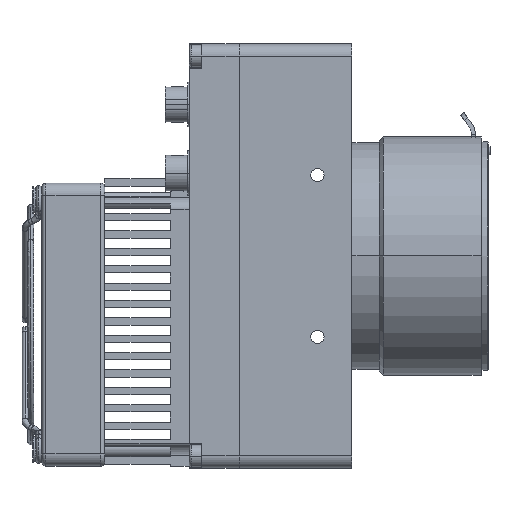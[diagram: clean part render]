
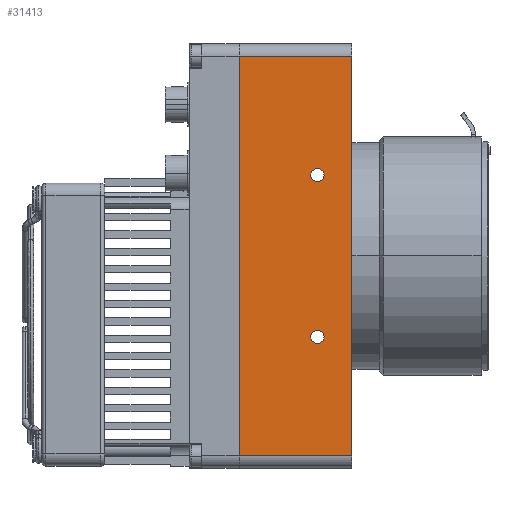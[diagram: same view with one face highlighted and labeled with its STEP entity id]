
A CAD part, left-side view. The second image highlights one B-rep face of the part: STEP entity #31413.
In plain terms, the highlighted planar face has unit normal (-1, 0, 0).
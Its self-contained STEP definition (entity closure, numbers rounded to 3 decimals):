
#67 = EDGE_CURVE ( 'NONE', #29285, #19348, #17528, .T. ) ;
#131 = AXIS2_PLACEMENT_3D ( 'NONE', #10005, #1193, #7155 ) ;
#397 = DIRECTION ( 'NONE',  ( 0., 0., 1. ) ) ;
#590 = EDGE_LOOP ( 'NONE', ( #15031, #12535 ) ) ;
#1123 = DIRECTION ( 'NONE',  ( 0., 0., 1. ) ) ;
#1193 = DIRECTION ( 'NONE',  ( -1., 0., 0. ) ) ;
#1910 = VERTEX_POINT ( 'NONE', #13142 ) ;
#1940 = DIRECTION ( 'NONE',  ( 0., 0., 1. ) ) ;
#2352 = CIRCLE ( 'NONE', #14669, 1.65 ) ;
#3054 = PLANE ( 'NONE',  #9479 ) ;
#3292 = ORIENTED_EDGE ( 'NONE', *, *, #4690, .F. ) ;
#3825 = CARTESIAN_POINT ( 'NONE',  ( -41.006, -6.854, 70. ) ) ;
#3880 = AXIS2_PLACEMENT_3D ( 'NONE', #3825, #18462, #27243 ) ;
#4323 = CARTESIAN_POINT ( 'NONE',  ( -41.006, -6.854, 111.65 ) ) ;
#4690 = EDGE_CURVE ( 'NONE', #24022, #12717, #2352, .T. ) ;
#5550 = ORIENTED_EDGE ( 'NONE', *, *, #67, .T. ) ;
#5691 = VERTEX_POINT ( 'NONE', #22553 ) ;
#5823 = LINE ( 'NONE', #19142, #11837 ) ;
#6138 = ORIENTED_EDGE ( 'NONE', *, *, #35572, .F. ) ;
#7011 = LINE ( 'NONE', #32682, #14442 ) ;
#7155 = DIRECTION ( 'NONE',  ( 0., 0., 1. ) ) ;
#7877 = EDGE_CURVE ( 'NONE', #30282, #32666, #25024, .T. ) ;
#7951 = EDGE_LOOP ( 'NONE', ( #34573, #5550, #26008, #20026 ) ) ;
#8318 = VECTOR ( 'NONE', #18597, 1000. ) ;
#8667 = CIRCLE ( 'NONE', #131, 1.65 ) ;
#9244 = AXIS2_PLACEMENT_3D ( 'NONE', #16851, #19692, #1940 ) ;
#9247 = CARTESIAN_POINT ( 'NONE',  ( -41.006, 12.466, 139.5 ) ) ;
#9256 = EDGE_CURVE ( 'NONE', #32666, #30282, #8667, .T. ) ;
#9479 = AXIS2_PLACEMENT_3D ( 'NONE', #14472, #17586, #35188 ) ;
#9613 = VECTOR ( 'NONE', #18845, 1000. ) ;
#9888 = CARTESIAN_POINT ( 'NONE',  ( -41.006, -3.354, 139.5 ) ) ;
#10005 = CARTESIAN_POINT ( 'NONE',  ( -41.006, -6.854, 110. ) ) ;
#10582 = EDGE_LOOP ( 'NONE', ( #6138, #3292 ) ) ;
#11109 = EDGE_CURVE ( 'NONE', #5691, #19348, #5823, .T. ) ;
#11467 = CARTESIAN_POINT ( 'NONE',  ( -41.006, -6.854, 70. ) ) ;
#11837 = VECTOR ( 'NONE', #1123, 1000. ) ;
#12535 = ORIENTED_EDGE ( 'NONE', *, *, #9256, .F. ) ;
#12717 = VERTEX_POINT ( 'NONE', #19394 ) ;
#13142 = CARTESIAN_POINT ( 'NONE',  ( -41.006, -15.354, 40.5 ) ) ;
#13801 = CARTESIAN_POINT ( 'NONE',  ( -41.006, -6.854, 108.35 ) ) ;
#14355 = DIRECTION ( 'NONE',  ( -1., 0., 0. ) ) ;
#14442 = VECTOR ( 'NONE', #397, 1000. ) ;
#14472 = CARTESIAN_POINT ( 'NONE',  ( -41.006, -3.354, 142.5 ) ) ;
#14669 = AXIS2_PLACEMENT_3D ( 'NONE', #11467, #14355, #34946 ) ;
#14878 = CARTESIAN_POINT ( 'NONE',  ( -41.006, -15.354, 139.5 ) ) ;
#15031 = ORIENTED_EDGE ( 'NONE', *, *, #7877, .F. ) ;
#16851 = CARTESIAN_POINT ( 'NONE',  ( -41.006, -6.854, 110. ) ) ;
#17528 = LINE ( 'NONE', #9888, #9613 ) ;
#17586 = DIRECTION ( 'NONE',  ( 1., 0., 0. ) ) ;
#18462 = DIRECTION ( 'NONE',  ( -1., 0., 0. ) ) ;
#18597 = DIRECTION ( 'NONE',  ( 0., -1., 0. ) ) ;
#18832 = FACE_BOUND ( 'NONE', #590, .T. ) ;
#18845 = DIRECTION ( 'NONE',  ( 0., 1., 0. ) ) ;
#19142 = CARTESIAN_POINT ( 'NONE',  ( -41.006, 12.466, 37.5 ) ) ;
#19348 = VERTEX_POINT ( 'NONE', #9247 ) ;
#19394 = CARTESIAN_POINT ( 'NONE',  ( -41.006, -6.854, 71.65 ) ) ;
#19692 = DIRECTION ( 'NONE',  ( -1., 0., 0. ) ) ;
#20026 = ORIENTED_EDGE ( 'NONE', *, *, #23196, .T. ) ;
#21283 = EDGE_CURVE ( 'NONE', #1910, #29285, #7011, .T. ) ;
#22067 = FACE_OUTER_BOUND ( 'NONE', #7951, .T. ) ;
#22237 = LINE ( 'NONE', #27642, #8318 ) ;
#22553 = CARTESIAN_POINT ( 'NONE',  ( -41.006, 12.466, 40.5 ) ) ;
#23196 = EDGE_CURVE ( 'NONE', #5691, #1910, #22237, .T. ) ;
#24022 = VERTEX_POINT ( 'NONE', #33167 ) ;
#25024 = CIRCLE ( 'NONE', #9244, 1.65 ) ;
#26008 = ORIENTED_EDGE ( 'NONE', *, *, #11109, .F. ) ;
#27243 = DIRECTION ( 'NONE',  ( 0., 0., 1. ) ) ;
#27642 = CARTESIAN_POINT ( 'NONE',  ( -41.006, -3.354, 40.5 ) ) ;
#28091 = FACE_BOUND ( 'NONE', #10582, .T. ) ;
#29285 = VERTEX_POINT ( 'NONE', #14878 ) ;
#29659 = CIRCLE ( 'NONE', #3880, 1.65 ) ;
#30282 = VERTEX_POINT ( 'NONE', #4323 ) ;
#31413 = ADVANCED_FACE ( 'NONE', ( #28091, #18832, #22067 ), #3054, .F. ) ;
#32666 = VERTEX_POINT ( 'NONE', #13801 ) ;
#32682 = CARTESIAN_POINT ( 'NONE',  ( -41.006, -15.354, 142.5 ) ) ;
#33167 = CARTESIAN_POINT ( 'NONE',  ( -41.006, -6.854, 68.35 ) ) ;
#34573 = ORIENTED_EDGE ( 'NONE', *, *, #21283, .T. ) ;
#34946 = DIRECTION ( 'NONE',  ( 0., 0., 1. ) ) ;
#35188 = DIRECTION ( 'NONE',  ( 0., 0., -1. ) ) ;
#35572 = EDGE_CURVE ( 'NONE', #12717, #24022, #29659, .T. ) ;
